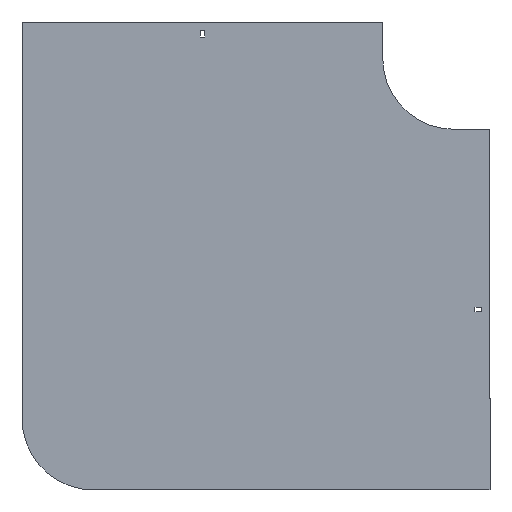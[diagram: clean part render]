
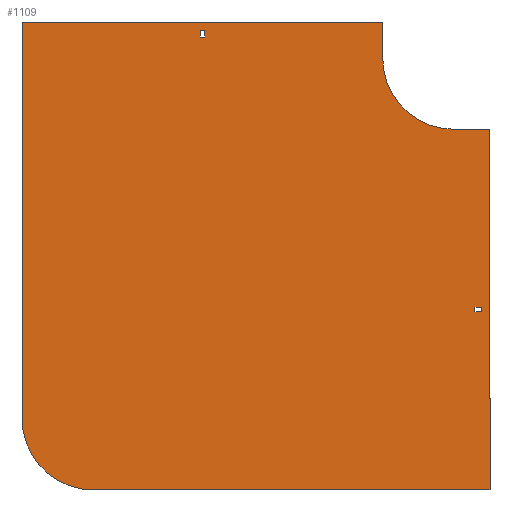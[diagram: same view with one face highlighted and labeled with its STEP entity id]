
A CAD part, front view. The second image highlights one B-rep face of the part: STEP entity #1109.
In plain terms, the highlighted planar face has unit normal (0, -1, 0).
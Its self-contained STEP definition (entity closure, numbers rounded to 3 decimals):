
#2 = EDGE_CURVE ( 'NONE', #1282, #370, #861, .T. ) ;
#4 = DIRECTION ( 'NONE',  ( 0., 0., -1. ) ) ;
#7 = EDGE_CURVE ( 'NONE', #963, #876, #634, .T. ) ;
#8 = CARTESIAN_POINT ( 'NONE',  ( -348.75, 0., 29. ) ) ;
#24 = LINE ( 'NONE', #1292, #501 ) ;
#30 = DIRECTION ( 'NONE',  ( 1., 0., 0. ) ) ;
#42 = ORIENTED_EDGE ( 'NONE', *, *, #1207, .T. ) ;
#53 = LINE ( 'NONE', #1169, #427 ) ;
#63 = CARTESIAN_POINT ( 'NONE',  ( -504., 0., -504. ) ) ;
#67 = VECTOR ( 'NONE', #1359, 1000. ) ;
#87 = PLANE ( 'NONE',  #1294 ) ;
#88 = CARTESIAN_POINT ( 'NONE',  ( -604., 0., -504. ) ) ;
#102 = EDGE_CURVE ( 'NONE', #385, #827, #1214, .T. ) ;
#119 = DIRECTION ( 'NONE',  ( 0., 0., -1. ) ) ;
#134 = CIRCLE ( 'NONE', #754, 100. ) ;
#135 = CARTESIAN_POINT ( 'NONE',  ( -604., 0., -504. ) ) ;
#140 = VECTOR ( 'NONE', #30, 1000. ) ;
#155 = CARTESIAN_POINT ( 'NONE',  ( 29., 0., -355.25 ) ) ;
#165 = LINE ( 'NONE', #818, #260 ) ;
#166 = LINE ( 'NONE', #603, #890 ) ;
#169 = CARTESIAN_POINT ( 'NONE',  ( 38., 0., -355.25 ) ) ;
#177 = VECTOR ( 'NONE', #1064, 1000. ) ;
#201 = VECTOR ( 'NONE', #511, 1000. ) ;
#210 = LINE ( 'NONE', #1285, #986 ) ;
#217 = VERTEX_POINT ( 'NONE', #534 ) ;
#219 = CARTESIAN_POINT ( 'NONE',  ( -604., 0., 50. ) ) ;
#241 = DIRECTION ( 'NONE',  ( -1., 0., 0. ) ) ;
#242 = VECTOR ( 'NONE', #1283, 1000. ) ;
#252 = EDGE_CURVE ( 'NONE', #419, #744, #210, .T. ) ;
#260 = VECTOR ( 'NONE', #1041, 1000. ) ;
#264 = CIRCLE ( 'NONE', #928, 100. ) ;
#287 = ORIENTED_EDGE ( 'NONE', *, *, #444, .F. ) ;
#303 = EDGE_CURVE ( 'NONE', #370, #394, #886, .T. ) ;
#313 = LINE ( 'NONE', #851, #428 ) ;
#318 = EDGE_LOOP ( 'NONE', ( #1203, #1040, #494, #42 ) ) ;
#334 = ORIENTED_EDGE ( 'NONE', *, *, #1392, .F. ) ;
#340 = EDGE_CURVE ( 'NONE', #394, #436, #895, .T. ) ;
#348 = CARTESIAN_POINT ( 'NONE',  ( -355.25, 0., 29. ) ) ;
#359 = DIRECTION ( 'NONE',  ( 1., 0., 0. ) ) ;
#370 = VERTEX_POINT ( 'NONE', #155 ) ;
#385 = VERTEX_POINT ( 'NONE', #1261 ) ;
#388 = CARTESIAN_POINT ( 'NONE',  ( -100., 0., 50. ) ) ;
#394 = VERTEX_POINT ( 'NONE', #484 ) ;
#412 = CARTESIAN_POINT ( 'NONE',  ( 29., 0., -348.75 ) ) ;
#419 = VERTEX_POINT ( 'NONE', #1140 ) ;
#427 = VECTOR ( 'NONE', #920, 1000. ) ;
#428 = VECTOR ( 'NONE', #771, 1000. ) ;
#436 = VERTEX_POINT ( 'NONE', #1350 ) ;
#444 = EDGE_CURVE ( 'NONE', #876, #1232, #165, .T. ) ;
#454 = FACE_BOUND ( 'NONE', #1275, .T. ) ;
#484 = CARTESIAN_POINT ( 'NONE',  ( 38., 0., -355.25 ) ) ;
#494 = ORIENTED_EDGE ( 'NONE', *, *, #252, .T. ) ;
#501 = VECTOR ( 'NONE', #1117, 1000. ) ;
#511 = DIRECTION ( 'NONE',  ( 0., 0., 1. ) ) ;
#534 = CARTESIAN_POINT ( 'NONE',  ( -100., 0., 0. ) ) ;
#561 = EDGE_CURVE ( 'NONE', #1232, #217, #313, .T. ) ;
#579 = CARTESIAN_POINT ( 'NONE',  ( 29., 0., -355.25 ) ) ;
#580 = EDGE_CURVE ( 'NONE', #885, #385, #972, .T. ) ;
#581 = DIRECTION ( 'NONE',  ( 0., 0., -1. ) ) ;
#586 = ORIENTED_EDGE ( 'NONE', *, *, #340, .F. ) ;
#603 = CARTESIAN_POINT ( 'NONE',  ( 0., 0., -100. ) ) ;
#634 = LINE ( 'NONE', #88, #242 ) ;
#645 = VECTOR ( 'NONE', #1172, 1000. ) ;
#654 = ORIENTED_EDGE ( 'NONE', *, *, #1026, .F. ) ;
#670 = FACE_BOUND ( 'NONE', #318, .T. ) ;
#676 = FACE_OUTER_BOUND ( 'NONE', #846, .T. ) ;
#690 = DIRECTION ( 'NONE',  ( 0., -1., 0. ) ) ;
#700 = CARTESIAN_POINT ( 'NONE',  ( 0., 0., -100. ) ) ;
#708 = ORIENTED_EDGE ( 'NONE', *, *, #102, .F. ) ;
#717 = VERTEX_POINT ( 'NONE', #348 ) ;
#728 = ORIENTED_EDGE ( 'NONE', *, *, #580, .F. ) ;
#740 = LINE ( 'NONE', #412, #67 ) ;
#744 = VERTEX_POINT ( 'NONE', #8 ) ;
#754 = AXIS2_PLACEMENT_3D ( 'NONE', #1112, #690, #4 ) ;
#764 = ORIENTED_EDGE ( 'NONE', *, *, #835, .F. ) ;
#771 = DIRECTION ( 'NONE',  ( 0., 0., -1. ) ) ;
#790 = ORIENTED_EDGE ( 'NONE', *, *, #303, .F. ) ;
#809 = ORIENTED_EDGE ( 'NONE', *, *, #2, .F. ) ;
#818 = CARTESIAN_POINT ( 'NONE',  ( -604., 0., 50. ) ) ;
#827 = VERTEX_POINT ( 'NONE', #1011 ) ;
#835 = EDGE_CURVE ( 'NONE', #217, #1407, #134, .T. ) ;
#846 = EDGE_LOOP ( 'NONE', ( #287, #917, #654, #708, #728, #334, #764, #900 ) ) ;
#851 = CARTESIAN_POINT ( 'NONE',  ( -100., 0., 50. ) ) ;
#861 = LINE ( 'NONE', #1290, #645 ) ;
#876 = VERTEX_POINT ( 'NONE', #219 ) ;
#885 = VERTEX_POINT ( 'NONE', #1202 ) ;
#886 = LINE ( 'NONE', #579, #140 ) ;
#890 = VECTOR ( 'NONE', #359, 1000. ) ;
#895 = LINE ( 'NONE', #169, #201 ) ;
#900 = ORIENTED_EDGE ( 'NONE', *, *, #561, .F. ) ;
#917 = ORIENTED_EDGE ( 'NONE', *, *, #7, .F. ) ;
#920 = DIRECTION ( 'NONE',  ( 1., 0., 0. ) ) ;
#928 = AXIS2_PLACEMENT_3D ( 'NONE', #63, #937, #1358 ) ;
#937 = DIRECTION ( 'NONE',  ( 0., 1., 0. ) ) ;
#945 = CARTESIAN_POINT ( 'NONE',  ( -355.25, 0., 29. ) ) ;
#957 = EDGE_CURVE ( 'NONE', #717, #1363, #24, .T. ) ;
#963 = VERTEX_POINT ( 'NONE', #135 ) ;
#972 = LINE ( 'NONE', #1297, #1027 ) ;
#983 = DIRECTION ( 'NONE',  ( 0., 0., -1. ) ) ;
#986 = VECTOR ( 'NONE', #119, 1000. ) ;
#1011 = CARTESIAN_POINT ( 'NONE',  ( -504., 0., -604. ) ) ;
#1026 = EDGE_CURVE ( 'NONE', #827, #963, #264, .T. ) ;
#1027 = VECTOR ( 'NONE', #983, 1000. ) ;
#1040 = ORIENTED_EDGE ( 'NONE', *, *, #1209, .T. ) ;
#1041 = DIRECTION ( 'NONE',  ( 1., 0., 0. ) ) ;
#1059 = LINE ( 'NONE', #945, #177 ) ;
#1064 = DIRECTION ( 'NONE',  ( -1., 0., 0. ) ) ;
#1109 = ADVANCED_FACE ( 'NONE', ( #670, #676, #454 ), #87, .T. ) ;
#1112 = CARTESIAN_POINT ( 'NONE',  ( 0., 0., 0. ) ) ;
#1117 = DIRECTION ( 'NONE',  ( 0., 0., 1. ) ) ;
#1140 = CARTESIAN_POINT ( 'NONE',  ( -348.75, 0., 38. ) ) ;
#1169 = CARTESIAN_POINT ( 'NONE',  ( -355.25, 0., 38. ) ) ;
#1172 = DIRECTION ( 'NONE',  ( 0., 0., -1. ) ) ;
#1200 = CARTESIAN_POINT ( 'NONE',  ( 50., 0., -604. ) ) ;
#1202 = CARTESIAN_POINT ( 'NONE',  ( 50., 0., -100. ) ) ;
#1203 = ORIENTED_EDGE ( 'NONE', *, *, #957, .T. ) ;
#1207 = EDGE_CURVE ( 'NONE', #744, #717, #1059, .T. ) ;
#1209 = EDGE_CURVE ( 'NONE', #1363, #419, #53, .T. ) ;
#1214 = LINE ( 'NONE', #1200, #1247 ) ;
#1232 = VERTEX_POINT ( 'NONE', #388 ) ;
#1234 = CARTESIAN_POINT ( 'NONE',  ( -355.25, 0., 38. ) ) ;
#1247 = VECTOR ( 'NONE', #241, 1000. ) ;
#1261 = CARTESIAN_POINT ( 'NONE',  ( 50., 0., -604. ) ) ;
#1275 = EDGE_LOOP ( 'NONE', ( #586, #790, #809, #1298 ) ) ;
#1282 = VERTEX_POINT ( 'NONE', #1381 ) ;
#1283 = DIRECTION ( 'NONE',  ( 0., 0., 1. ) ) ;
#1285 = CARTESIAN_POINT ( 'NONE',  ( -348.75, 0., 29. ) ) ;
#1290 = CARTESIAN_POINT ( 'NONE',  ( 29., 0., -355.25 ) ) ;
#1292 = CARTESIAN_POINT ( 'NONE',  ( -355.25, 0., 29. ) ) ;
#1294 = AXIS2_PLACEMENT_3D ( 'NONE', #1383, #1352, #581 ) ;
#1297 = CARTESIAN_POINT ( 'NONE',  ( 50., 0., -100. ) ) ;
#1298 = ORIENTED_EDGE ( 'NONE', *, *, #1306, .F. ) ;
#1306 = EDGE_CURVE ( 'NONE', #436, #1282, #740, .T. ) ;
#1350 = CARTESIAN_POINT ( 'NONE',  ( 38., 0., -348.75 ) ) ;
#1352 = DIRECTION ( 'NONE',  ( 0., -1., 0. ) ) ;
#1358 = DIRECTION ( 'NONE',  ( 0., 0., 1. ) ) ;
#1359 = DIRECTION ( 'NONE',  ( -1., 0., 0. ) ) ;
#1363 = VERTEX_POINT ( 'NONE', #1234 ) ;
#1381 = CARTESIAN_POINT ( 'NONE',  ( 29., 0., -348.75 ) ) ;
#1383 = CARTESIAN_POINT ( 'NONE',  ( 0., 0., 0. ) ) ;
#1392 = EDGE_CURVE ( 'NONE', #1407, #885, #166, .T. ) ;
#1407 = VERTEX_POINT ( 'NONE', #700 ) ;
